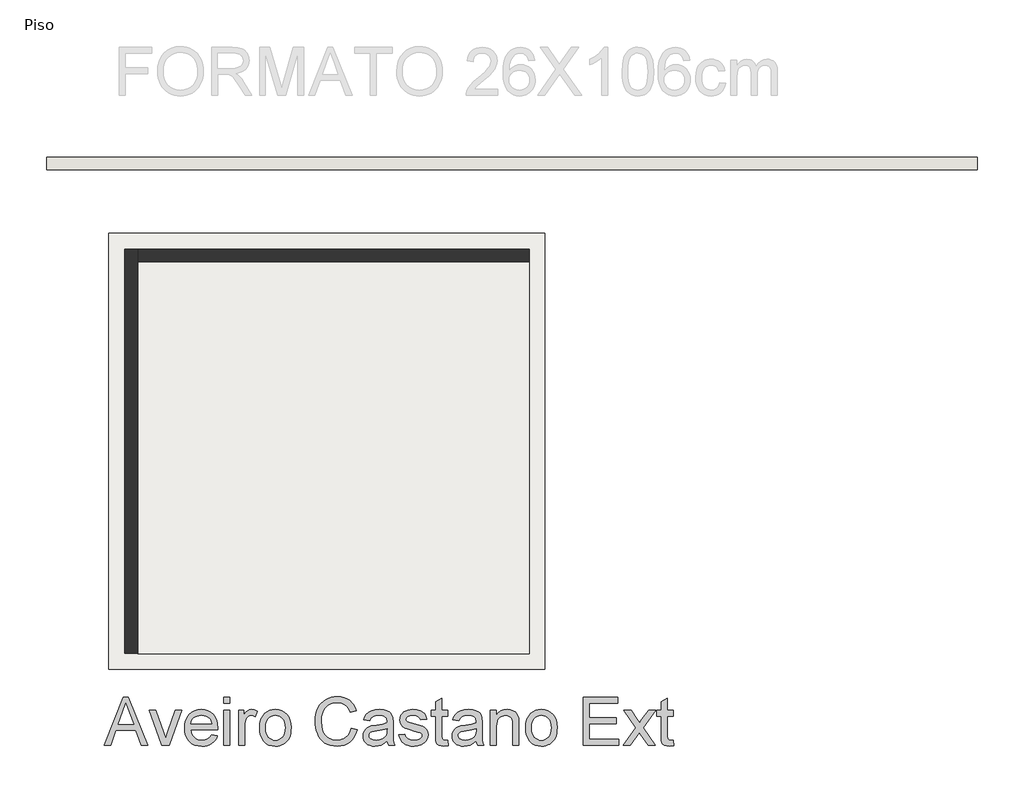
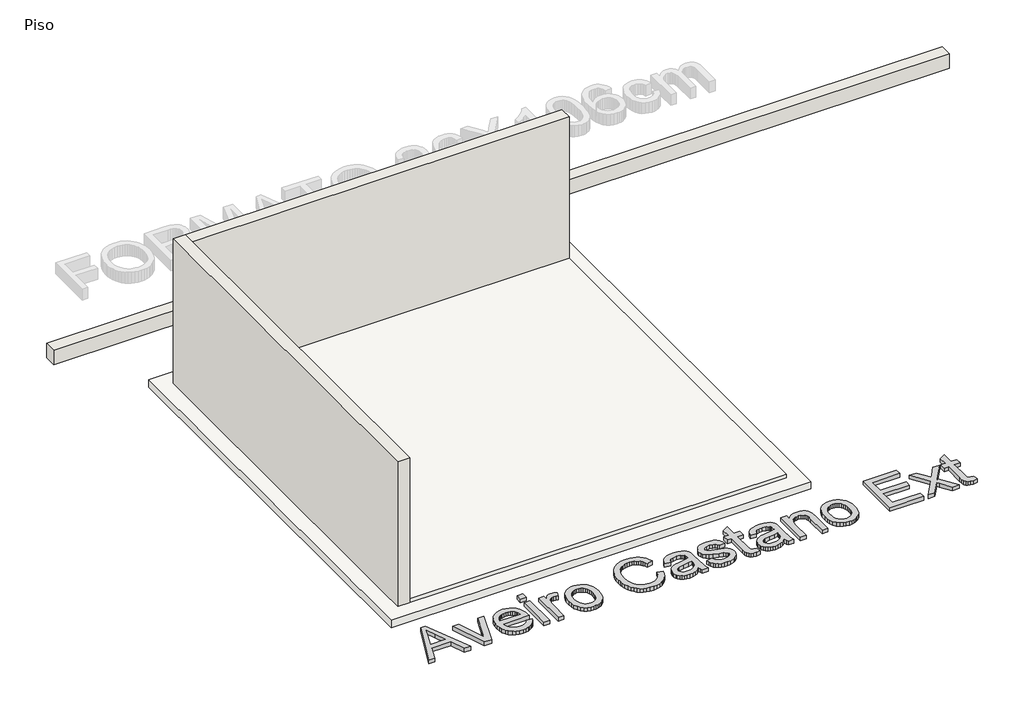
# One storey, part 1 of 2: 3 walls, 2 slabs, 1 proxy.
"""IFC4 building model written with IfcOpenShell, lengths in millimetres."""

from ifc_helpers import new_model, si_unit, frame, origin, origin_with_axes, place, context, project, spatial, polyline, outline, extrude, faceted_brep, element, save

model = new_model("IFC4")

# Units and contexts
model_context = context("Model", 3, world=origin())
ifc_project = project(units=[si_unit("LENGTHUNIT", "METRE", prefix="MILLI")], contexts=[model_context])

# Site, building, storey
site = spatial("IfcSite", under=ifc_project)
building = spatial("IfcBuilding", under=site)
storey = spatial("IfcBuildingStorey", under=building, Name="Piso", Elevation=0.0)

# Proxy
placement = place(None, origin())
element("IfcBuildingElementProxy", 1, Name="600mm Arial", ObjectType="600mm Arial", at=placement, inside=storey, context=model_context, shape_type="SweptSolid", body=[
    extrude(outline(polyline([(288010.993073, -5469.1849345), (288251.5878979, -4866.4470736), (288315.7465178, -4866.4470736), (288556.3413427, -5469.1849345), (288476.7316789, -5469.1849345), (288407.7170166, -5280.8293529), (288159.4702463, -5280.8293529), (288090.6027368, -5469.1849345), (288010.993073, -5469.1849345)]), holes=[polyline([(288187.1349723, -5205.4871203), (288380.1994434, -5205.4871203), (288325.9000609, -5057.3042527), (288283.6672078, -4941.7893062), (288246.1432443, -5044.3548064), (288187.1349723, -5205.4871203)])]), origin_with_axes(), (0.0, 0.0, 1.0), 50.0),
    extrude(outline(polyline([(288736.0149091, -5469.1849345), (288580.3272487, -5026.5493179), (288660.0840653, -5026.5493179), (288754.4090089, -5291.71866), (288782.8094989, -5380.8932556), (288810.6213777, -5296.7218551), (288905.5349325, -5026.5493179), (288985.291749, -5026.5493179), (288831.5170751, -5469.1849345), (288736.0149091, -5469.1849345)])), origin_with_axes(), (0.0, 0.0, 1.0), 50.0),
    extrude(outline(polyline([(289361.1199953, -5337.3360274), (289434.9906999, -5346.7538065), (289423.664533, -5376.3407159), (289408.3744376, -5402.4143524), (289389.1204137, -5424.9747157), (289365.9024612, -5444.021806), (289338.9597036, -5459.1509531), (289308.5312641, -5469.9574867), (289274.6171427, -5476.4414068), (289237.2173393, -5478.6027136), (289190.4687348, -5474.8733098), (289148.8152959, -5463.6850986), (289112.2570226, -5445.03808), (289080.793915, -5418.9322539), (289055.4928308, -5386.0941873), (289037.4206278, -5347.2504472), (289026.5773059, -5302.4010334), (289022.9628653, -5251.5459461), (289026.6140941, -5198.966412), (289037.5677806, -5152.6224776), (289055.8239246, -5112.5141431), (289081.3825262, -5078.6414084), (289112.7628604, -5051.7308404), (289148.4842021, -5032.5090062), (289188.5465514, -5020.9759057), (289232.9499082, -5017.1315388), (289275.9231238, -5020.9667086), (289314.785258, -5032.472218), (289349.536311, -5051.648067), (289380.1762827, -5078.4942556), (289405.1876598, -5112.2934139), (289423.0529292, -5152.328172), (289433.7720908, -5198.59853), (289437.3451447, -5251.1044877), (289436.9036863, -5271.4115739), (289098.305098, -5271.4115739), (289102.6690981, -5301.4767299), (289111.3465147, -5327.8078837), (289124.3373476, -5350.4050353), (289141.641597, -5369.2681846), (289162.3027695, -5384.1398142), (289185.3643721, -5394.7624069), (289210.8264047, -5401.1359624), (289238.6888673, -5403.2604809), (289278.7880048, -5399.3241436), (289312.5595719, -5387.5151315), (289340.0035688, -5367.0976808), (289361.1199953, -5337.3360274)]), holes=[polyline([(289098.305098, -5196.0693413), (289362.0029121, -5196.0693413), (289351.8125808, -5156.2645094), (289343.0477923, -5140.6111305), (289331.8365885, -5127.790443), (289311.2903791, -5112.3393992), (289287.9114783, -5101.3029393), (289261.6998861, -5094.6810634), (289232.6556026, -5092.4737714), (289206.1635004, -5094.2350065), (289181.8694932, -5099.5187116), (289159.7735808, -5108.3248869), (289139.8757634, -5120.6535322), (289123.1785194, -5135.9344306), (289110.6843271, -5153.5973649), (289102.3931866, -5173.6423351), (289098.305098, -5196.0693413)])]), origin_with_axes(), (0.0, 0.0, 1.0), 50.0),
    extrude(outline(polyline([(289512.6873773, -4941.7893062), (289512.6873773, -4866.4470736), (289588.0296099, -4866.4470736), (289588.0296099, -4941.7893062), (289512.6873773, -4941.7893062)])), origin_with_axes(), (0.0, 0.0, 1.0), 50.0),
    extrude(outline(polyline([(289512.6873773, -5469.1849345), (289512.6873773, -5026.5493179), (289588.0296099, -5026.5493179), (289588.0296099, -5469.1849345), (289512.6873773, -5469.1849345)])), origin_with_axes(), (0.0, 0.0, 1.0), 50.0),
    extrude(outline(polyline([(289701.0429589, -5469.1849345), (289701.0429589, -5026.5493179), (289766.9674124, -5026.5493179), (289766.9674124, -5092.032313), (289791.3212005, -5054.0668911), (289813.7620022, -5031.6996658), (289836.2763803, -5020.7735706), (289860.8508976, -5017.1315388), (289898.3748611, -5022.9440743), (289936.4874358, -5040.3816809), (289911.3243073, -5107.9248152), (289884.8368036, -5096.3365324), (289858.3493, -5092.4737714), (289835.853316, -5096.1893796), (289815.748565, -5107.336204), (289799.5065749, -5125.0681162), (289788.5988737, -5148.5389875), (289779.438612, -5190.6246877), (289776.3851915, -5236.5363607), (289776.3851915, -5469.1849345), (289701.0429589, -5469.1849345)])), origin_with_axes(), (0.0, 0.0, 1.0), 50.0),
    extrude(outline(polyline([(289964.740773, -5247.8671262), (289968.8150661, -5190.5419143), (289981.0379454, -5141.1445594), (290001.4094109, -5099.6750615), (290029.9294625, -5066.1334206), (290058.6426523, -5044.6950973), (290090.3356862, -5029.3820092), (290125.0085642, -5020.1941564), (290162.6612864, -5017.1315388), (290204.2273533, -5020.8609425), (290241.8110977, -5032.0491537), (290275.4125194, -5050.6961723), (290305.0316185, -5076.8019984), (290329.2060641, -5109.4837152), (290346.4735253, -5147.8584058), (290356.834002, -5191.9260703), (290360.2874942, -5241.6867087), (290358.7607839, -5282.0157724), (290354.1806531, -5317.8014935), (290346.5471017, -5349.0438719), (290335.8601297, -5375.7429077), (290322.2530944, -5398.8045103), (290305.859353, -5419.134589), (290286.6789055, -5436.733144), (290264.7117519, -5451.6001751), (290240.8132178, -5463.4137857), (290215.8386288, -5471.8520789), (290189.787985, -5476.9150549), (290162.6612864, -5478.6027136), (290120.4882142, -5474.8871054), (290082.554982, -5463.7402809), (290048.8615897, -5445.1622402), (290019.4080375, -5419.1529831), (289995.4911093, -5386.1539682), (289978.4075891, -5346.6066537), (289968.157477, -5300.5110397), (289964.740773, -5247.8671262)]), holes=[polyline([(290040.0830056, -5247.7199734), (290042.2627064, -5284.2644511), (290048.8018089, -5315.9069012), (290059.700313, -5342.6473237), (290074.9582188, -5364.4857186), (290093.5178654, -5381.4496772), (290114.3215922, -5393.5667904), (290137.3693992, -5400.8370583), (290162.6612864, -5403.2604809), (290187.8244149, -5400.8232627), (290210.7802514, -5393.5116081), (290231.5287959, -5381.325517), (290250.0700485, -5364.2649895), (290265.3279542, -5342.2104638), (290276.2264583, -5315.0423785), (290282.7655608, -5282.7607334), (290284.9452616, -5245.3655286), (290282.7517652, -5209.9798792), (290276.171276, -5179.1651636), (290265.203794, -5152.9213817), (290249.8493193, -5131.2485337), (290231.2390888, -5114.2845752), (290210.5043399, -5102.167462), (290187.6450724, -5094.8971941), (290162.6612864, -5092.4737714), (290137.3693992, -5094.887997), (290114.3215922, -5102.1306738), (290093.5178654, -5114.2018018), (290074.9582188, -5131.1013809), (290059.700313, -5152.8753965), (290048.8018089, -5179.5698338), (290042.2627064, -5211.1846927), (290040.0830056, -5247.7199734)])]), origin_with_axes(), (0.0, 0.0, 1.0), 50.0),
    extrude(outline(polyline([(291113.7098203, -5254.9304605), (291189.0520529, -5274.3546298), (291174.1436351, -5321.2090004), (291154.2872044, -5362.149668), (291129.4827609, -5397.1766324), (291099.7303045, -5426.2898938), (291065.70122, -5449.1767525), (291028.0668919, -5465.5245086), (290986.8273202, -5475.3331623), (290941.982505, -5478.6027136), (290896.0386423, -5476.1287071), (290854.592137, -5468.7066879), (290817.6429891, -5456.3366558), (290785.1911986, -5439.0186109), (290756.7907086, -5417.0100705), (290731.9954621, -5390.5685521), (290710.8054592, -5359.6940557), (290693.2206998, -5324.3865812), (290679.4113295, -5286.1728389), (290669.5474935, -5246.5795392), (290663.6291919, -5205.606682), (290661.6564247, -5163.2542673), (290663.8867093, -5117.8116438), (290670.577563, -5075.3672586), (290681.728986, -5035.9211117), (290697.3409782, -4999.473203), (290717.0640517, -4966.6259394), (290740.5487185, -4937.9817275), (290767.7949788, -4913.5405675), (290798.8028325, -4893.3024592), (290832.5192173, -4877.4329497), (290867.8910712, -4866.0975857), (290904.918394, -4859.2963673), (290943.6011858, -4857.0292945), (290986.693963, -4859.9631534), (291026.2090878, -4868.7647301), (291062.1465602, -4883.4340247), (291094.5063802, -4903.9710371), (291122.7551189, -4929.8331413), (291146.3593474, -4960.4777115), (291165.3190657, -4995.9047477), (291179.6342739, -5036.1142498), (291104.2920413, -5054.0668911), (291092.4278469, -5024.4385949), (291078.1724196, -4999.1237151), (291061.5257593, -4978.1222517), (291042.4878661, -4961.4342047), (291020.9483753, -4948.7192833), (290996.7969223, -4939.6371965), (290970.0335071, -4934.1879445), (290940.6581298, -4932.3715271), (290906.8589715, -4934.385681), (290875.9476869, -4940.4281428), (290847.9242759, -4950.4989124), (290822.7887385, -4964.5979899), (290800.8583731, -4982.0907788), (290782.4504778, -5002.3426826), (290767.5650525, -5025.3537014), (290756.2020974, -5051.1238352), (290741.7995173, -5106.2693462), (290736.9986573, -5163.1071145), (290742.6824341, -5232.710388), (290749.7871551, -5263.9803576), (290759.7337646, -5292.8958824), (290772.6832108, -5318.8821468), (290788.7964422, -5341.3643353), (290808.0734587, -5360.3424477), (290830.5142604, -5375.8164841), (290855.0289969, -5387.8232327), (290880.5278177, -5396.3994817), (290907.0107228, -5401.5452311), (290934.4777123, -5403.2604809), (290967.2330054, -5400.9244303), (290997.3671394, -5393.9162783), (291024.8801141, -5382.2360249), (291049.7719296, -5365.8836702), (291071.4539747, -5344.9327906), (291089.3376382, -5319.4569624), (291103.42292, -5289.4561857), (291113.7098203, -5254.9304605)])), origin_with_axes(), (0.0, 0.0, 1.0), 50.0),
    extrude(outline(polyline([(291565.763216, -5412.67826), (291529.7659628, -5443.5435594), (291492.7018518, -5463.7402809), (291453.7247544, -5474.8871054), (291411.988542, -5478.6027136), (291378.4423026, -5476.3678304), (291349.0255385, -5469.6631811), (291323.7382499, -5458.4887655), (291302.5804367, -5442.8445836), (291285.8739956, -5423.7239169), (291273.9408233, -5402.1200468), (291266.78092, -5378.0329731), (291264.3942856, -5351.462696), (291267.9995291, -5320.2295146), (291278.8152598, -5291.8658128), (291295.4987083, -5267.5856011), (291316.7071053, -5248.6028902), (291341.6311104, -5234.2554924), (291369.4613834, -5223.8812201), (291434.6500729, -5212.5504546), (291511.6845627, -5200.631078), (291565.3217576, -5186.6515622), (291565.763216, -5169.8761432), (291560.5760799, -5136.2517288), (291554.0921597, -5123.7989233), (291545.0146715, -5114.2523855), (291529.3245044, -5104.7242419), (291510.2130347, -5097.9184249), (291461.7261878, -5092.4737714), (291416.8445844, -5096.0974091), (291385.5010384, -5106.968322), (291364.1270945, -5127.0730731), (291349.1542972, -5158.3982249), (291273.8120646, -5148.9804459), (291286.8902696, -5107.7776624), (291306.4064094, -5075.4040468), (291334.1815, -5050.6455886), (291372.0365573, -5032.288277), (291418.3345064, -5020.9207234), (291471.4382724, -5017.1315388), (291522.3715347, -5020.479265), (291562.7465836, -5030.5224434), (291593.1888187, -5045.6239993), (291614.3236394, -5064.1468578), (291628.3399434, -5087.047512), (291637.4266287, -5115.2824551), (291641.1054486, -5181.2069087), (291641.1054486, -5274.943241), (291644.9314214, -5405.8356549), (291650.5968041, -5438.1908764), (291659.9410068, -5469.1849345), (291584.5987742, -5469.1849345), (291572.5322447, -5442.9917364), (291565.763216, -5412.67826)]), holes=[polyline([(291565.763216, -5261.9937948), (291515.1426535, -5274.5385708), (291444.2150048, -5285.0967841), (291379.3941973, -5297.3104663), (291362.5268078, -5305.6613876), (291350.037214, -5317.1760941), (291342.3116921, -5330.9716689), (291339.7365182, -5346.1651953), (291345.3467186, -5368.5692088), (291362.1773199, -5386.9265204), (291389.86044, -5399.1769908), (291428.028197, -5403.2604809), (291468.4952165, -5398.7539265), (291504.2533464, -5385.2342632), (291533.2424476, -5365.3134531), (291553.402381, -5341.6034585), (291562.3419135, -5317.1760941), (291565.3217576, -5283.3309505), (291565.763216, -5261.9937948)])]), origin_with_axes(), (0.0, 0.0, 1.0), 50.0),
    extrude(outline(polyline([(291716.4476812, -5337.3360274), (291791.7899138, -5327.9182483), (291796.3424535, -5345.0983375), (291803.6725023, -5360.1447111), (291813.7800601, -5373.0573691), (291826.665127, -5383.8363116), (291842.3644911, -5392.3343857), (291860.9149407, -5398.4044386), (291906.5690963, -5403.2604809), (291951.6714289, -5398.8091088), (291969.201006, -5393.2448936), (291983.3828569, -5385.4549924), (292002.1448387, -5366.1043994), (292006.8353341, -5355.2702747), (292008.3988326, -5343.6635977), (292006.8261371, -5333.4916606), (292002.1080505, -5324.4601576), (291983.2357041, -5309.8184542), (291955.0191551, -5300.2535223), (291905.6861796, -5288.3341456), (291836.9290347, -5268.4501238), (291792.2313722, -5251.4723697), (291763.5181825, -5232.9495113), (291742.7144557, -5208.4301763), (291730.0777092, -5179.4778633), (291725.8654603, -5147.6560707), (291729.2499747, -5118.4646344), (291739.4035177, -5091.5172782), (291755.4063845, -5067.88086), (291776.33887, -5048.6222376), (291797.1425969, -5036.5005258), (291824.2371058, -5026.3285887), (291855.5622577, -5019.4308013), (291889.0579134, -5017.1315388), (291938.0965833, -5020.8287529), (291980.7341066, -5031.920395), (292015.0207085, -5049.3212134), (292039.0066146, -5071.9459561), (292054.8991168, -5101.4684862), (292064.9055071, -5139.5626668), (291989.5632745, -5148.9804459), (291980.0535249, -5125.2704513), (291961.2363608, -5107.4097804), (291932.9278413, -5096.2077737), (291894.9440253, -5092.4737714), (291851.6811027, -5096.0422268), (291822.8391542, -5106.7475928), (291806.6155582, -5122.1986366), (291801.2076929, -5140.0041252), (291803.4517731, -5151.592408), (291810.1840136, -5161.9298921), (291821.6987201, -5171.1637302), (291838.290198, -5178.5581583), (291903.184582, -5194.5978133), (292013.7699097, -5230.0616376), (292042.9797402, -5247.0209976), (292065.1262363, -5270.2343515), (292079.087358, -5299.7752757), (292083.7410652, -5335.7173466), (292078.2780176, -5372.8734281), (292061.8888747, -5407.8222177), (292035.199036, -5437.8229944), (291998.8339007, -5460.1350374), (291954.9087905, -5473.9857945), (291905.5390268, -5478.6027136), (291864.9892338, -5476.3770275), (291829.5713947, -5469.6999693), (291799.2855095, -5458.5715389), (291774.1315781, -5442.9917364), (291753.5853686, -5423.0341382), (291737.1226494, -5398.7723206), (291724.7434202, -5370.2062837), (291716.4476812, -5337.3360274)])), origin_with_axes(), (0.0, 0.0, 1.0), 50.0),
    extrude(outline(polyline([(292328.6033212, -5406.3506897), (292338.0211003, -5471.3922264), (292281.6615786, -5478.6027136), (292245.4987785, -5475.4757166), (292218.5330282, -5466.0947257), (292199.4767409, -5451.6369633), (292187.0423295, -5433.2796517), (292180.1997244, -5401.7521648), (292177.918856, -5347.7838761), (292177.918856, -5101.8915505), (292121.4121815, -5101.8915505), (292121.4121815, -5026.5493179), (292177.918856, -5026.5493179), (292177.918856, -4918.9806225), (292253.2610886, -4874.6876303), (292253.2610886, -5026.5493179), (292328.6033212, -5026.5493179), (292328.6033212, -5101.8915505), (292253.2610886, -5101.8915505), (292253.2610886, -5345.5765841), (292257.2342141, -5384.4249228), (292270.110084, -5398.1837094), (292280.9809969, -5401.9912881), (292295.7882472, -5403.2604809), (292328.6033212, -5406.3506897)])), origin_with_axes(), (0.0, 0.0, 1.0), 50.0),
    extrude(outline(polyline([(292686.4789261, -5412.67826), (292650.4816729, -5443.5435594), (292613.4175619, -5463.7402809), (292574.4404645, -5474.8871054), (292532.7042521, -5478.6027136), (292499.1580127, -5476.3678304), (292469.7412487, -5469.6631811), (292444.45396, -5458.4887655), (292423.2961468, -5442.8445836), (292406.5897057, -5423.7239169), (292394.6565334, -5402.1200468), (292387.4966301, -5378.0329731), (292385.1099957, -5351.462696), (292388.7152392, -5320.2295146), (292399.5309699, -5291.8658128), (292416.2144184, -5267.5856011), (292437.4228154, -5248.6028902), (292462.3468206, -5234.2554924), (292490.1770935, -5223.8812201), (292555.365783, -5212.5504546), (292632.4002728, -5200.631078), (292686.0374677, -5186.6515622), (292686.4789261, -5169.8761432), (292681.29179, -5136.2517288), (292674.8078698, -5123.7989233), (292665.7303816, -5114.2523855), (292650.0402145, -5104.7242419), (292630.9287448, -5097.9184249), (292582.4418979, -5092.4737714), (292537.5602945, -5096.0974091), (292506.2167485, -5106.968322), (292484.8428046, -5127.0730731), (292469.8700074, -5158.3982249), (292394.5277747, -5148.9804459), (292407.6059797, -5107.7776624), (292427.1221195, -5075.4040468), (292454.8972102, -5050.6455886), (292492.7522675, -5032.288277), (292539.0502165, -5020.9207234), (292592.1539826, -5017.1315388), (292643.0872448, -5020.479265), (292683.4622938, -5030.5224434), (292713.9045289, -5045.6239993), (292735.0393495, -5064.1468578), (292749.0556535, -5087.047512), (292758.1423388, -5115.2824551), (292761.8211587, -5181.2069087), (292761.8211587, -5274.943241), (292765.6471315, -5405.8356549), (292771.3125142, -5438.1908764), (292780.6567169, -5469.1849345), (292705.3144843, -5469.1849345), (292693.2479548, -5442.9917364), (292686.4789261, -5412.67826)]), holes=[polyline([(292686.4789261, -5261.9937948), (292635.8583636, -5274.5385708), (292564.9307149, -5285.0967841), (292500.1099074, -5297.3104663), (292483.2425179, -5305.6613876), (292470.7529241, -5317.1760941), (292463.0274022, -5330.9716689), (292460.4522283, -5346.1651953), (292466.0624287, -5368.5692088), (292482.89303, -5386.9265204), (292510.5761501, -5399.1769908), (292548.7439071, -5403.2604809), (292589.2109266, -5398.7539265), (292624.9690565, -5385.2342632), (292653.9581577, -5365.3134531), (292674.1180911, -5341.6034585), (292683.0576236, -5317.1760941), (292686.0374677, -5283.3309505), (292686.4789261, -5261.9937948)])]), origin_with_axes(), (0.0, 0.0, 1.0), 50.0),
    extrude(outline(polyline([(292865.4167286, -5469.1849345), (292865.4167286, -5026.5493179), (292940.7589612, -5026.5493179), (292940.7589612, -5088.3534931), (292966.9337651, -5057.1938881), (292998.3692816, -5034.9370274), (293035.0655106, -5021.5829109), (293077.0224522, -5017.1315388), (293114.1601396, -5020.7183883), (293148.1708301, -5031.4789366), (293176.5345319, -5048.0704146), (293196.7312534, -5069.1500529), (293210.4348577, -5094.6626693), (293219.3192079, -5124.5530814), (293223.2923335, -5197.3937164), (293223.2923335, -5469.1849345), (293147.9501009, -5469.1849345), (293147.9501009, -5207.5472595), (293145.7795971, -5168.5885562), (293139.2680858, -5140.887042), (293127.2567386, -5121.0398083), (293108.5867274, -5105.6439468), (293084.6560036, -5095.7663153), (293056.8625189, -5092.4737714), (293033.9848573, -5094.3223784), (293012.7350735, -5099.8681995), (292993.1131676, -5109.1112346), (292975.1191395, -5122.0514838), (292960.0865615, -5140.160475), (292949.3490058, -5164.9097363), (292942.9064723, -5196.2992675), (292940.7589612, -5234.3290688), (292940.7589612, -5469.1849345), (292865.4167286, -5469.1849345)])), origin_with_axes(), (0.0, 0.0, 1.0), 50.0),
    extrude(outline(polyline([(293308.0523452, -5247.8671262), (293312.1266383, -5190.5419143), (293324.3495176, -5141.1445594), (293344.720983, -5099.6750615), (293373.2410347, -5066.1334206), (293401.9542244, -5044.6950973), (293433.6472583, -5029.3820092), (293468.3201364, -5020.1941564), (293505.9728586, -5017.1315388), (293547.5389255, -5020.8609425), (293585.1226698, -5032.0491537), (293618.7240916, -5050.6961723), (293648.3431907, -5076.8019984), (293672.5176363, -5109.4837152), (293689.7850975, -5147.8584058), (293700.1455741, -5191.9260703), (293703.5990664, -5241.6867087), (293702.0723561, -5282.0157724), (293697.4922253, -5317.8014935), (293689.8586739, -5349.0438719), (293679.1717019, -5375.7429077), (293665.5646666, -5398.8045103), (293649.1709252, -5419.134589), (293629.9904777, -5436.733144), (293608.023324, -5451.6001751), (293584.1247899, -5463.4137857), (293559.150201, -5471.8520789), (293533.0995572, -5476.9150549), (293505.9728586, -5478.6027136), (293463.7997863, -5474.8871054), (293425.8665541, -5463.7402809), (293392.1731619, -5445.1622402), (293362.7196096, -5419.1529831), (293338.8026814, -5386.1539682), (293321.7191613, -5346.6066537), (293311.4690492, -5300.5110397), (293308.0523452, -5247.8671262)]), holes=[polyline([(293383.3945778, -5247.7199734), (293385.5742786, -5284.2644511), (293392.1133811, -5315.9069012), (293403.0118852, -5342.6473237), (293418.2697909, -5364.4857186), (293436.8294376, -5381.4496772), (293457.6331644, -5393.5667904), (293480.6809714, -5400.8370583), (293505.9728586, -5403.2604809), (293531.135987, -5400.8232627), (293554.0918235, -5393.5116081), (293574.8403681, -5381.325517), (293593.3816206, -5364.2649895), (293608.6395264, -5342.2104638), (293619.5380305, -5315.0423785), (293626.0771329, -5282.7607334), (293628.2568338, -5245.3655286), (293626.0633374, -5209.9798792), (293619.4828482, -5179.1651636), (293608.5153662, -5152.9213817), (293593.1608914, -5131.2485337), (293574.550661, -5114.2845752), (293553.815912, -5102.167462), (293530.9566446, -5094.8971941), (293505.9728586, -5092.4737714), (293480.6809714, -5094.887997), (293457.6331644, -5102.1306738), (293436.8294376, -5114.2018018), (293418.2697909, -5131.1013809), (293403.0118852, -5152.8753965), (293392.1133811, -5179.5698338), (293385.5742786, -5211.1846927), (293383.3945778, -5247.7199734)])]), origin_with_axes(), (0.0, 0.0, 1.0), 50.0),
    extrude(outline(polyline([(294033.2213341, -5469.1849345), (294033.2213341, -4866.4470736), (294466.4391716, -4866.4470736), (294466.4391716, -4941.7893062), (294108.5635667, -4941.7893062), (294108.5635667, -5120.7271086), (294447.6036134, -5120.7271086), (294447.6036134, -5196.0693413), (294108.5635667, -5196.0693413), (294108.5635667, -5393.8427019), (294475.8569507, -5393.8427019), (294475.8569507, -5469.1849345), (294033.2213341, -5469.1849345)])), origin_with_axes(), (0.0, 0.0, 1.0), 50.0),
    extrude(outline(polyline([(294532.3636251, -5469.1849345), (294693.3487862, -5246.6899038), (294541.7814042, -5026.5493179), (294632.4275278, -5026.5493179), (294705.5624684, -5132.4993325), (294739.7019176, -5182.5312838), (294769.27963, -5141.622806), (294852.5681137, -5026.5493179), (294943.2142373, -5026.5493179), (294783.9949098, -5246.6899038), (294937.3281254, -5469.1849345), (294846.6820018, -5469.1849345), (294754.4171974, -5335.423041), (294737.4946256, -5310.9956765), (294623.0097487, -5469.1849345), (294532.3636251, -5469.1849345)])), origin_with_axes(), (0.0, 0.0, 1.0), 50.0),
    extrude(outline(polyline([(295163.3548232, -5406.3506897), (295172.7726023, -5471.3922264), (295116.4130807, -5478.6027136), (295080.2502805, -5475.4757166), (295053.2845303, -5466.0947257), (295034.2282429, -5451.6369633), (295021.7938315, -5433.2796517), (295014.9512264, -5401.7521648), (295012.670358, -5347.7838761), (295012.670358, -5101.8915505), (294956.1636836, -5101.8915505), (294956.1636836, -5026.5493179), (295012.670358, -5026.5493179), (295012.670358, -4918.9806225), (295088.0125906, -4874.6876303), (295088.0125906, -5026.5493179), (295163.3548232, -5026.5493179), (295163.3548232, -5101.8915505), (295088.0125906, -5101.8915505), (295088.0125906, -5345.5765841), (295091.9857162, -5384.4249228), (295104.861586, -5398.1837094), (295115.732499, -5401.9912881), (295130.5397493, -5403.2604809), (295163.3548232, -5406.3506897)])), origin_with_axes(), (0.0, 0.0, 1.0), 50.0),
])

# Slabs
element("IfcSlab", 2, ObjectType="5cm - Porcelanato Aveiro Castano Ext  - Externo 26x106", at=placement, inside=storey, context=model_context, shape_type="SweptSolid", body=[
    extrude(outline(polyline([(293350.8751846, 606.9486968), (293350.8751846, -4313.6513032), (288430.2751846, -4313.6513032), (288430.2751846, 606.9486968), (293350.8751846, 606.9486968)])), origin_with_axes(), (0.0, 0.0, 1.0), 50.0),
])
element("IfcSlab", 3, ObjectType="CO02 - Concreto Estrutural Simples", at=placement, inside=storey, context=model_context, shape_type="SweptSolid", body=[
    extrude(outline(polyline([(293550.8751846, 965.7486968), (293550.8751846, -4513.6513032), (288071.4751846, -4513.6513032), (288071.4751846, 965.7486968), (293550.8751846, 965.7486968)])), frame((0.0, 0.0, -100.0), z_axis=(0.0, 0.0, 1.0), x_axis=(1.0, 0.0, 0.0)), (0.0, 0.0, 1.0), 100.0),
])

# Walls
element("IfcWall", 4, ObjectType="CO01 - Bloco de Concreto 14cm / Pintura Branca Simples", at=placement, inside=storey, context=model_context, shape_type="SweptSolid", body=[
    extrude(outline(polyline([(298986.699165, 1765.7486968), (287286.699165, 1765.7486968), (287286.699165, 1924.5486968), (298986.699165, 1924.5486968), (298986.699165, 1765.7486968)])), origin_with_axes(), (0.0, 0.0, 1.0), 200.0),
])
element("IfcWall", 5, ObjectType="CO01 - Bloco de Concreto 14cm / Pintura Branca Simples", at=placement, inside=storey, context=model_context, shape_type="Brep", body=[
    faceted_brep([(288430.2751846, -4313.6513032, 0.0), (288430.2751846, 606.9486968, 0.0), (288430.2751846, 765.7486968, 0.0), (288430.2751846, 765.7486968, 2000.0), (288430.2751846, 606.9486968, 2000.0), (288430.2751846, -4313.6513032, 2000.0), (288271.4751846, -4313.6513032, 0.0), (288271.4751846, -4313.6513032, 2000.0), (288271.4751846, 765.7486968, 2000.0), (288271.4751846, 765.7486968, 0.0)], [[[0, 1, 2, 3, 4, 5]], [[6, 7, 8, 9]], [[2, 1, 0, 6, 9]], [[5, 4, 3, 8, 7]], [[0, 5, 7, 6]], [[3, 2, 9, 8]]]),
])
element("IfcWall", 6, ObjectType="CO01 - Bloco de Concreto 14cm / Pintura Branca Simples", at=placement, inside=storey, context=model_context, shape_type="SweptSolid", body=[
    extrude(outline(polyline([(293350.8751846, 606.9486968), (288430.2751846, 606.9486968), (288430.2751846, 765.7486968), (293350.8751846, 765.7486968), (293350.8751846, 606.9486968)])), origin_with_axes(), (0.0, 0.0, 1.0), 2000.0),
])

save(model, "model.ifc")
